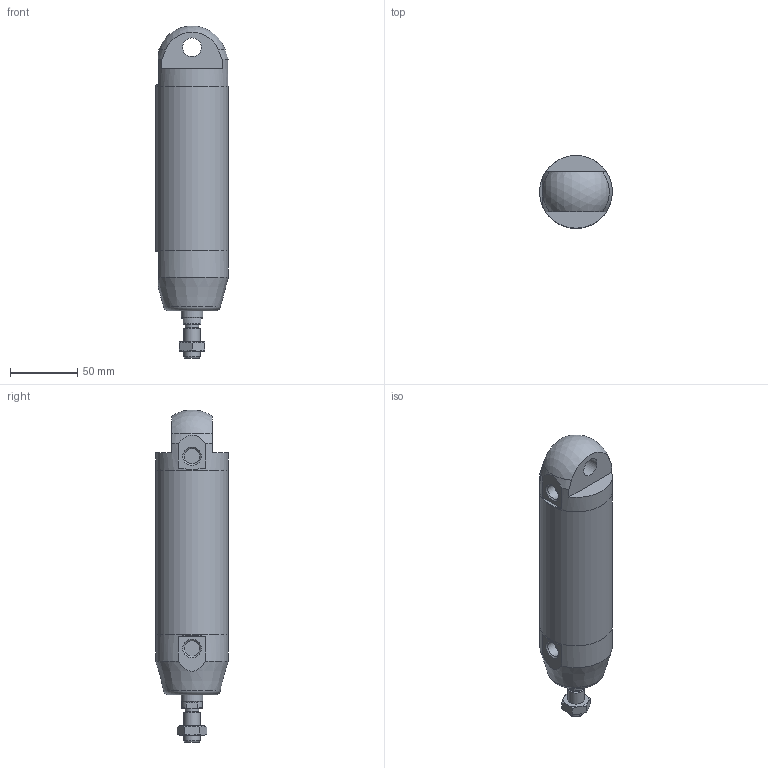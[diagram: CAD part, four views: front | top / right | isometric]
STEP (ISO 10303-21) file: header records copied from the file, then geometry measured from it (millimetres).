
FILE_DESCRIPTION(/* description */ (''),/* implementation_level */ '2;1');
FILE_NAME(/* name */ 'I:\Area Tecnica\Documenti\A-Manieri\_Inventor\12X\12X#A_###_####_#_#\12XAA_050_0080_#_#.stp',/* time_stamp */ '2015-04-22T12:07:43+02:00',/* author */ ('maniean1'),/* organization */ ('Pneumax S.p.A.'),/* preprocessor_version */ 'ST-DEVELOPER v15.2',/* originating_system */ 'Autodesk Inventor 2014',/* authorisation */ '');
FILE_SCHEMA (('AUTOMOTIVE_DESIGN { 1 0 10303 214 3 1 1 }'));
Length unit declared in the file: millimetre
Products named in the file (6): C1250_619-0080; 12X50_613; 12X50_605; S12X50_0080; 12X_50_11; 12XAA_050_0080_#_#
Bounding box: 54 x 54 x 246.83 mm (x, y, z)
Volume: 296370.5 mm3; surface area: 83840.9 mm2
Topology: 5 solids, 5 shells, 59 faces, 126 edges, 81 vertices
Faces by surface type: plane 31, cylinder 14, cone 12, torus 1, sphere 1
Full cylindrical faces by diameter (mm): 10.2 x1, 11.4 x2, 12 x2, 14 x2, 15.6 x1, 16 x1, 50 x2, 54 x3
Entity records: 1560 total; most frequent: CARTESIAN_POINT 288, DIRECTION 266, ORIENTED_EDGE 196, AXIS2_PLACEMENT_3D 120, EDGE_CURVE 98, EDGE_LOOP 94, VERTEX_POINT 76, ADVANCED_FACE 59
